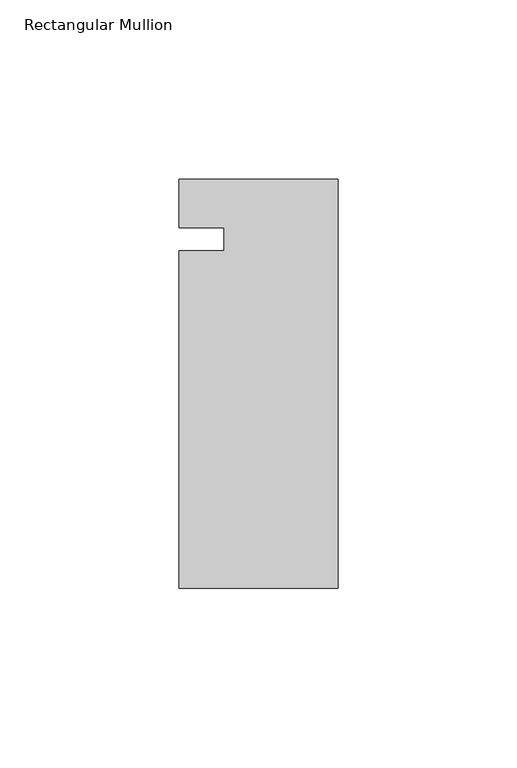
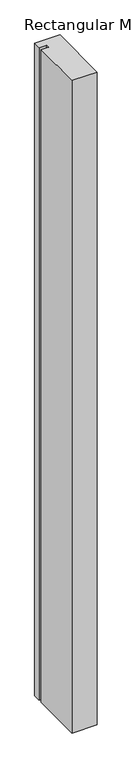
"""IFC4 building model written with IfcOpenShell, lengths in millimetres: member geometry, Rectangular Mullion : Kawneer-TRIFAB_VG_450_BACK_SB_Jamb L."""

from ifc_helpers import new_model, si_unit, frame, origin, place, context, project, spatial, polyline, outline, extrude, source, transform, mapped, element, save


def rectangular_mullion_b1e2b9a9(model_context):
    return source(origin(), model_context, "Body", "SweptSolid", [
        extrude(outline(polyline([(-44.45, 16.8671875), (0.0, 16.8671875), (0.0, -97.4328125), (-44.45, -97.4328125), (-44.45, -3.1159279), (-31.7482296, -3.1159279), (-31.7482296, 3.2340721), (-44.45, 3.2340721), (-44.45, 16.8671875)])), frame((0.0, 0.0, -1219.2), z_axis=(0.0, 0.0, 1.0), x_axis=(1.0, 0.0, 0.0)), (0.0, 0.0, 1.0), 1219.2),
    ])


if __name__ == "__main__":
    model = new_model("IFC4")
    model_context = context("Model", 3, world=origin())
    ifc_project = project(units=[si_unit("LENGTHUNIT", "METRE", prefix="MILLI")], contexts=[model_context])
    site = spatial("IfcSite", under=ifc_project)
    building = spatial("IfcBuilding", under=site)
    placement = place(None, origin())
    rectangular_mullion_shape = rectangular_mullion_b1e2b9a9(model_context)
    element("IfcMember", 1, ObjectType="Rectangular Mullion : Kawneer-TRIFAB_VG_450_BACK_SB_Jamb L", at=placement, inside=building, context=model_context, shape_type="MappedRepresentation", body=[
        mapped(rectangular_mullion_shape, transform((0.0, 0.0, 0.0), x_axis=(1.0, 0.0, 0.0), y_axis=(0.0, 1.0, 0.0), z_axis=(0.0, 0.0, 1.0))),
    ])
    save(model, "model.ifc")
